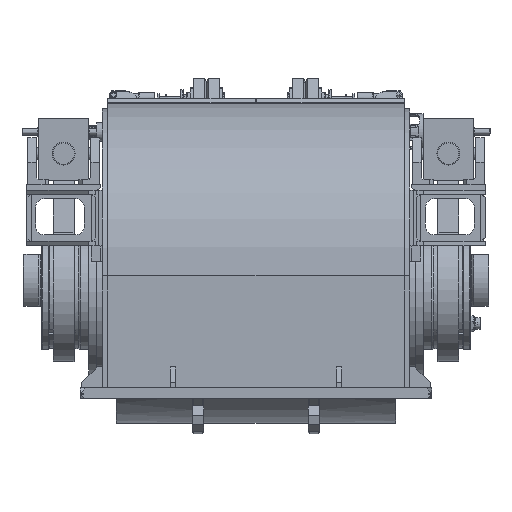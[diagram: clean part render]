
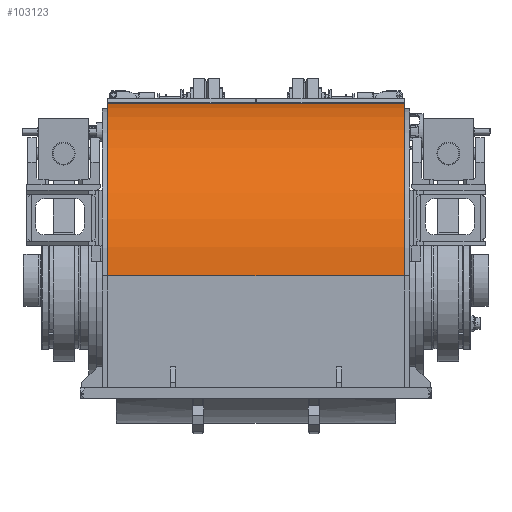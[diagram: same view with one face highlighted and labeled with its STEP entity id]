
A CAD part, front view. The second image highlights one B-rep face of the part: STEP entity #103123.
In plain terms, the highlighted cylindrical face has radius 497.5 mm (diameter 995 mm), a partial arc.
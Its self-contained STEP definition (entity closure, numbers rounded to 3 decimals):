
#5342=CYLINDRICAL_SURFACE('',#109803,497.5);
#8617=FACE_OUTER_BOUND('',#14481,.T.);
#14481=EDGE_LOOP('',(#71904,#71905,#71906,#71907));
#20040=CIRCLE('',#109793,497.5);
#20043=CIRCLE('',#109799,497.5);
#25755=LINE('',#152300,#33679);
#25908=LINE('',#152824,#33832);
#33679=VECTOR('',#123967,10.);
#33832=VECTOR('',#124432,10.);
#41367=VERTEX_POINT('',#152297);
#41368=VERTEX_POINT('',#152299);
#41580=VERTEX_POINT('',#152817);
#41583=VERTEX_POINT('',#152822);
#52484=EDGE_CURVE('',#41367,#41368,#25755,.T.);
#52745=EDGE_CURVE('',#41583,#41580,#25908,.T.);
#52751=EDGE_CURVE('',#41580,#41367,#20040,.T.);
#52759=EDGE_CURVE('',#41583,#41368,#20043,.T.);
#71904=ORIENTED_EDGE('',*,*,#52745,.F.);
#71905=ORIENTED_EDGE('',*,*,#52759,.T.);
#71906=ORIENTED_EDGE('',*,*,#52484,.F.);
#71907=ORIENTED_EDGE('',*,*,#52751,.F.);
#103123=ADVANCED_FACE('',(#8617),#5342,.T.);
#109793=AXIS2_PLACEMENT_3D('',#152834,#124442,#124443);
#109799=AXIS2_PLACEMENT_3D('',#152848,#124459,#124460);
#109803=AXIS2_PLACEMENT_3D('',#152858,#124472,#124473);
#123967=DIRECTION('',(-1.,0.,0.));
#124432=DIRECTION('',(1.,0.,0.));
#124442=DIRECTION('center_axis',(1.,0.,0.));
#124443=DIRECTION('ref_axis',(0.,0.129,0.992));
#124459=DIRECTION('center_axis',(1.,0.,0.));
#124460=DIRECTION('ref_axis',(0.,0.129,0.992));
#124472=DIRECTION('center_axis',(1.,0.,0.));
#124473=DIRECTION('ref_axis',(0.,0.129,0.992));
#152297=CARTESIAN_POINT('',(-15.,-1840.,47.5));
#152299=CARTESIAN_POINT('',(-870.,-1840.,47.5));
#152300=CARTESIAN_POINT('',(-442.5,-1840.,47.5));
#152817=CARTESIAN_POINT('',(-15.,-1291.07,542.334));
#152822=CARTESIAN_POINT('',(-870.,-1291.07,542.334));
#152824=CARTESIAN_POINT('',(-442.5,-1291.07,542.334));
#152834=CARTESIAN_POINT('Origin',(-15.,-1342.5,47.5));
#152848=CARTESIAN_POINT('Origin',(-870.,-1342.5,47.5));
#152858=CARTESIAN_POINT('Origin',(-442.5,-1342.5,47.5));
